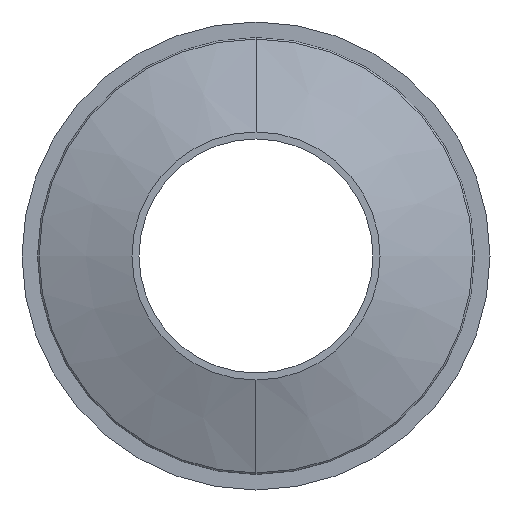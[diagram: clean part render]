
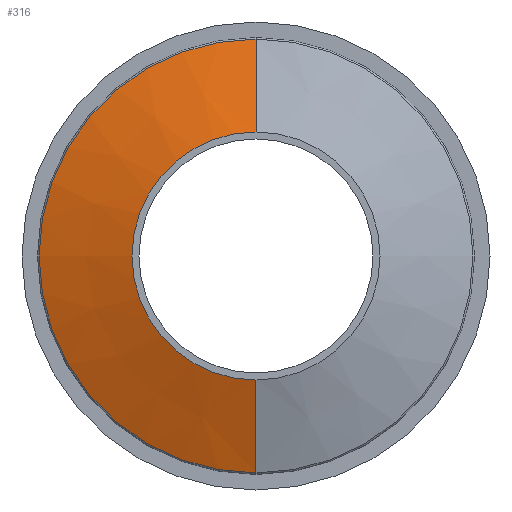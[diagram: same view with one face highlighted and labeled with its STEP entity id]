
A CAD part, left-side view. The second image highlights one B-rep face of the part: STEP entity #316.
In plain terms, the highlighted conical face has half-angle 70 degrees and reference radius 46.348 mm.
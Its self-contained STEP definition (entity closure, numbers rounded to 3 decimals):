
#3 = VERTEX_POINT ( 'NONE', #134 ) ;
#5 = DIRECTION ( 'NONE',  ( 1., 0., 0. ) ) ;
#20 = AXIS2_PLACEMENT_3D ( 'NONE', #448, #85, #70 ) ;
#36 = EDGE_CURVE ( 'NONE', #484, #3, #50, .T. ) ;
#39 = VECTOR ( 'NONE', #207, 1000. ) ;
#50 = CIRCLE ( 'NONE', #20, 46.348 ) ;
#67 = EDGE_LOOP ( 'NONE', ( #195, #360, #305, #184 ) ) ;
#70 = DIRECTION ( 'NONE',  ( 0., 0., 1. ) ) ;
#84 = DIRECTION ( 'NONE',  ( 0., 0., 1. ) ) ;
#85 = DIRECTION ( 'NONE',  ( -1., 0., 0. ) ) ;
#106 = CIRCLE ( 'NONE', #465, 26.5 ) ;
#117 = CARTESIAN_POINT ( 'NONE',  ( -7.495, 0., 46.348 ) ) ;
#124 = CARTESIAN_POINT ( 'NONE',  ( -7.495, 0., 0. ) ) ;
#134 = CARTESIAN_POINT ( 'NONE',  ( -7.495, 0., -46.348 ) ) ;
#136 = AXIS2_PLACEMENT_3D ( 'NONE', #124, #5, #176 ) ;
#161 = EDGE_CURVE ( 'NONE', #234, #3, #402, .T. ) ;
#176 = DIRECTION ( 'NONE',  ( 0., 0., -1. ) ) ;
#184 = ORIENTED_EDGE ( 'NONE', *, *, #161, .F. ) ;
#195 = ORIENTED_EDGE ( 'NONE', *, *, #343, .F. ) ;
#207 = DIRECTION ( 'NONE',  ( 0.342, 0., 0.94 ) ) ;
#234 = VERTEX_POINT ( 'NONE', #488 ) ;
#276 = CARTESIAN_POINT ( 'NONE',  ( -7.495, 0., -46.348 ) ) ;
#289 = DIRECTION ( 'NONE',  ( -1., 0., 0. ) ) ;
#298 = CONICAL_SURFACE ( 'NONE', #136, 46.348, 1.222 ) ;
#305 = ORIENTED_EDGE ( 'NONE', *, *, #36, .T. ) ;
#316 = ADVANCED_FACE ( 'NONE', ( #373 ), #298, .T. ) ;
#323 = CARTESIAN_POINT ( 'NONE',  ( -14.719, 0., 0. ) ) ;
#331 = LINE ( 'NONE', #117, #39 ) ;
#332 = EDGE_CURVE ( 'NONE', #334, #484, #331, .T. ) ;
#334 = VERTEX_POINT ( 'NONE', #447 ) ;
#343 = EDGE_CURVE ( 'NONE', #334, #234, #106, .T. ) ;
#360 = ORIENTED_EDGE ( 'NONE', *, *, #332, .T. ) ;
#373 = FACE_OUTER_BOUND ( 'NONE', #67, .T. ) ;
#402 = LINE ( 'NONE', #276, #409 ) ;
#409 = VECTOR ( 'NONE', #435, 1000. ) ;
#435 = DIRECTION ( 'NONE',  ( 0.342, 0., -0.94 ) ) ;
#447 = CARTESIAN_POINT ( 'NONE',  ( -14.719, 0., 26.5 ) ) ;
#448 = CARTESIAN_POINT ( 'NONE',  ( -7.495, 0., 0. ) ) ;
#463 = CARTESIAN_POINT ( 'NONE',  ( -7.495, 0., 46.348 ) ) ;
#465 = AXIS2_PLACEMENT_3D ( 'NONE', #323, #289, #84 ) ;
#484 = VERTEX_POINT ( 'NONE', #463 ) ;
#488 = CARTESIAN_POINT ( 'NONE',  ( -14.719, 0., -26.5 ) ) ;
